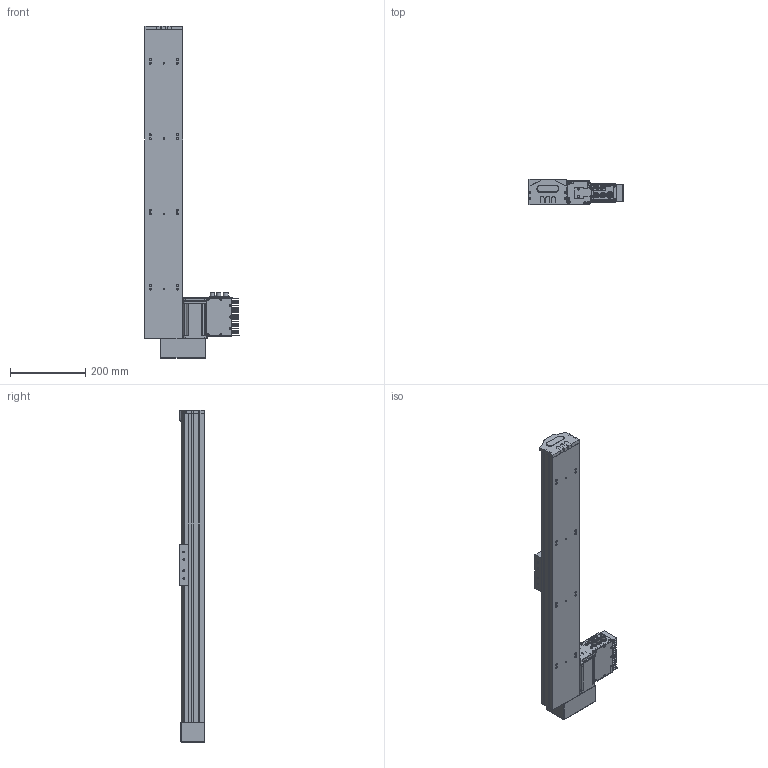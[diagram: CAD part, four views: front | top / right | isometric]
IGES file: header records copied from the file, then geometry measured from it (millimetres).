
Start section: SolidWorks IGES file using analytic representation for surfaces
Global section: file name: C:\Documents and Settings\1EDPI\Mes documents\yanize\S 10 TSH BR\S 10 TSH BR S600.IGS; native system: SolidWorks 2010; preprocessor: SolidWorks 2010; author: 1EDPI; date: 120904.143153; units: millimetre
Bounding box: 249.8 x 67.36 x 882 mm (x, y, z)
Surface area: 702894.9 mm2 (no closed solid volume)
Topology: 0 solids, 0 shells, 1974 faces, 26476 edges, 26444 vertices
Faces by surface type: revolution 1047, bspline 927
